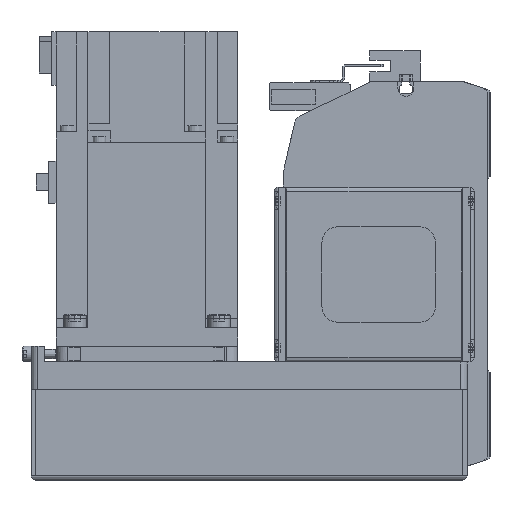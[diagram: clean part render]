
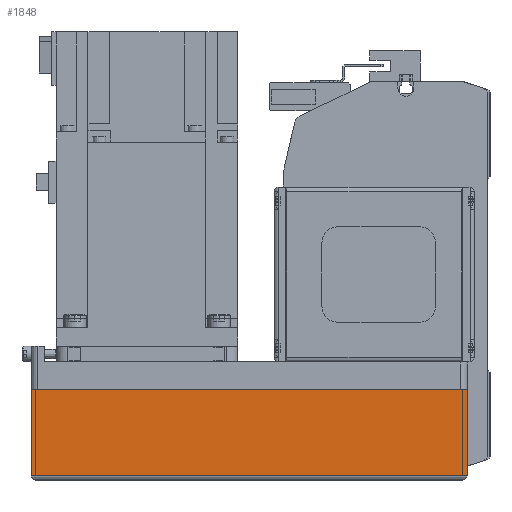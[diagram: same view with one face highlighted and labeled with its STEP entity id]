
A CAD part, left-side view. The second image highlights one B-rep face of the part: STEP entity #1848.
In plain terms, the highlighted planar face has unit normal (-1, 0, 0) as drawn and (0, -1, 0) by its records, which use the part's own axes.
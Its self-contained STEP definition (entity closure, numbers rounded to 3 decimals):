
#1848 = ADVANCED_FACE( '', ( #4537 ), #4538, .T. );
#4537 = FACE_OUTER_BOUND( '', #8279, .T. );
#4538 = PLANE( '', #8280 );
#8279 = EDGE_LOOP( '', ( #13538, #13539, #13540, #13541 ) );
#8280 = AXIS2_PLACEMENT_3D( '', #13542, #13543, #13544 );
#13538 = ORIENTED_EDGE( '', *, *, #22361, .F. );
#13539 = ORIENTED_EDGE( '', *, *, #22362, .F. );
#13540 = ORIENTED_EDGE( '', *, *, #22363, .T. );
#13541 = ORIENTED_EDGE( '', *, *, #22364, .T. );
#13542 = CARTESIAN_POINT( '', ( -192., -40., -12.1 ) );
#13543 = DIRECTION( '', ( 0., -1., 0. ) );
#13544 = DIRECTION( '', ( 0., 0., -1. ) );
#22361 = EDGE_CURVE( '', #27193, #27204, #27205, .T. );
#22362 = EDGE_CURVE( '', #27206, #27193, #27207, .T. );
#22363 = EDGE_CURVE( '', #27206, #27208, #27209, .T. );
#22364 = EDGE_CURVE( '', #27208, #27204, #27210, .T. );
#27193 = VERTEX_POINT( '', #34096 );
#27204 = VERTEX_POINT( '', #34113 );
#27205 = LINE( '', #34114, #34115 );
#27206 = VERTEX_POINT( '', #34116 );
#27207 = LINE( '', #34117, #34118 );
#27208 = VERTEX_POINT( '', #34119 );
#27209 = LINE( '', #34120, #34121 );
#27210 = LINE( '', #34122, #34123 );
#34096 = CARTESIAN_POINT( '', ( 0., -40., -12.1 ) );
#34113 = CARTESIAN_POINT( '', ( 0., -40., -50. ) );
#34114 = CARTESIAN_POINT( '', ( 0., -40., -12.1 ) );
#34115 = VECTOR( '', #41238, 1000. );
#34116 = CARTESIAN_POINT( '', ( -192., -40., -12.1 ) );
#34117 = CARTESIAN_POINT( '', ( -192., -40., -12.1 ) );
#34118 = VECTOR( '', #41239, 1000. );
#34119 = CARTESIAN_POINT( '', ( -192., -40., -50. ) );
#34120 = CARTESIAN_POINT( '', ( -192., -40., -12.1 ) );
#34121 = VECTOR( '', #41240, 1000. );
#34122 = CARTESIAN_POINT( '', ( -192., -40., -50. ) );
#34123 = VECTOR( '', #41241, 1000. );
#41238 = DIRECTION( '', ( 0., 0., -1. ) );
#41239 = DIRECTION( '', ( 1., 0., 0. ) );
#41240 = DIRECTION( '', ( 0., 0., -1. ) );
#41241 = DIRECTION( '', ( 1., 0., 0. ) );
